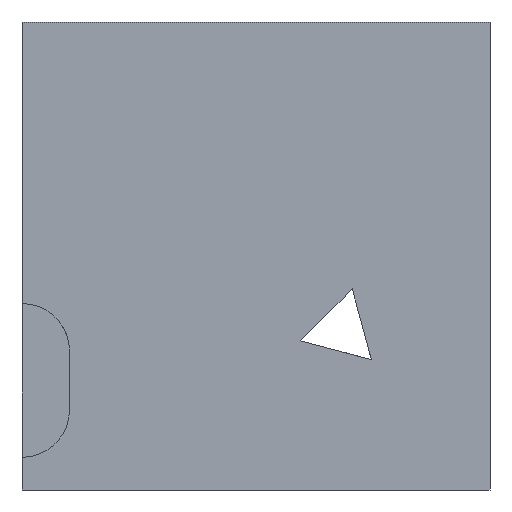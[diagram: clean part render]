
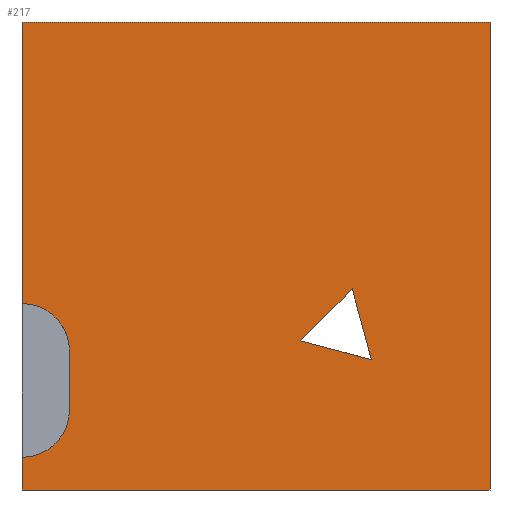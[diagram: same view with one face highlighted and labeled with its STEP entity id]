
A CAD part, front view. The second image highlights one B-rep face of the part: STEP entity #217.
In plain terms, the highlighted planar face has unit normal (0, -1, 0).
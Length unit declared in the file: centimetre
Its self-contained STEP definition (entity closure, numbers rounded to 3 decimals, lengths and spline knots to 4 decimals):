
#2 = VERTEX_POINT ( 'NONE', #24 ) ;
#13 = CARTESIAN_POINT ( 'NONE',  ( 0., 0., 0. ) ) ;
#15 = CARTESIAN_POINT ( 'NONE',  ( 0., 0., 296.8075 ) ) ;
#19 = LINE ( 'NONE', #441, #220 ) ;
#24 = CARTESIAN_POINT ( 'NONE',  ( 0., 0., 69.8417 ) ) ;
#74 = LINE ( 'NONE', #774, #208 ) ;
#90 = EDGE_CURVE ( 'NONE', #771, #142, #301, .T. ) ;
#94 = VECTOR ( 'NONE', #293, 100. ) ;
#115 = AXIS2_PLACEMENT_3D ( 'NONE', #511, #167, #725 ) ;
#130 = EDGE_CURVE ( 'NONE', #771, #803, #74, .T. ) ;
#142 = VERTEX_POINT ( 'NONE', #150 ) ;
#150 = CARTESIAN_POINT ( 'NONE',  ( 1000., 0., 1000. ) ) ;
#157 = VERTEX_POINT ( 'NONE', #418 ) ;
#167 = DIRECTION ( 'NONE',  ( 0., 1., 0. ) ) ;
#174 = CARTESIAN_POINT ( 'NONE',  ( 1000., 0., 1000. ) ) ;
#177 = LINE ( 'NONE', #13, #785 ) ;
#184 = ORIENTED_EDGE ( 'NONE', *, *, #90, .F. ) ;
#188 = ORIENTED_EDGE ( 'NONE', *, *, #130, .T. ) ;
#203 = EDGE_LOOP ( 'NONE', ( #823, #733, #551 ) ) ;
#208 = VECTOR ( 'NONE', #641, 100. ) ;
#217 = ADVANCED_FACE ( 'NONE', ( #847, #280 ), #720, .F. ) ;
#220 = VECTOR ( 'NONE', #521, 100. ) ;
#227 = CARTESIAN_POINT ( 'NONE',  ( 0., 0., 0. ) ) ;
#254 = EDGE_LOOP ( 'NONE', ( #824, #493, #896, #470, #490, #184, #188, #680 ) ) ;
#280 = FACE_OUTER_BOUND ( 'NONE', #254, .T. ) ;
#286 = EDGE_CURVE ( 'NONE', #702, #504, #880, .T. ) ;
#293 = DIRECTION ( 'NONE',  ( 1., 0., 0. ) ) ;
#296 = CARTESIAN_POINT ( 'NONE',  ( 594.6997, 0., 318.8105 ) ) ;
#301 = LINE ( 'NONE', #648, #94 ) ;
#310 = CARTESIAN_POINT ( 'NONE',  ( 0., 0., 398.354 ) ) ;
#313 = LINE ( 'NONE', #812, #762 ) ;
#314 = DIRECTION ( 'NONE',  ( 1., 0., 0. ) ) ;
#331 = VERTEX_POINT ( 'NONE', #869 ) ;
#340 = VECTOR ( 'NONE', #589, 100. ) ;
#344 = DIRECTION ( 'NONE',  ( 0., 1., 0. ) ) ;
#347 = VERTEX_POINT ( 'NONE', #227 ) ;
#349 = VECTOR ( 'NONE', #833, 100. ) ;
#359 = AXIS2_PLACEMENT_3D ( 'NONE', #15, #581, #799 ) ;
#384 = EDGE_CURVE ( 'NONE', #702, #2, #478, .T. ) ;
#400 = EDGE_CURVE ( 'NONE', #504, #803, #764, .T. ) ;
#418 = CARTESIAN_POINT ( 'NONE',  ( 746.5805, 0., 278.2738 ) ) ;
#423 = EDGE_CURVE ( 'NONE', #157, #464, #775, .T. ) ;
#441 = CARTESIAN_POINT ( 'NONE',  ( 746.5805, 0., 278.2738 ) ) ;
#445 = AXIS2_PLACEMENT_3D ( 'NONE', #708, #344, #497 ) ;
#449 = CARTESIAN_POINT ( 'NONE',  ( 101.5466, 0., 296.8075 ) ) ;
#464 = VERTEX_POINT ( 'NONE', #296 ) ;
#470 = ORIENTED_EDGE ( 'NONE', *, *, #717, .T. ) ;
#478 = CIRCLE ( 'NONE', #115, 101.5466 ) ;
#490 = ORIENTED_EDGE ( 'NONE', *, *, #751, .F. ) ;
#493 = ORIENTED_EDGE ( 'NONE', *, *, #384, .T. ) ;
#497 = DIRECTION ( 'NONE',  ( 0., 0., 1. ) ) ;
#504 = VERTEX_POINT ( 'NONE', #525 ) ;
#511 = CARTESIAN_POINT ( 'NONE',  ( 0., 0., 171.3883 ) ) ;
#521 = DIRECTION ( 'NONE',  ( 0.261, 0., -0.965 ) ) ;
#525 = CARTESIAN_POINT ( 'NONE',  ( 101.5466, 0., 296.8075 ) ) ;
#546 = EDGE_CURVE ( 'NONE', #2, #347, #313, .T. ) ;
#551 = ORIENTED_EDGE ( 'NONE', *, *, #423, .T. ) ;
#561 = DIRECTION ( 'NONE',  ( 0.707, 0., 0.707 ) ) ;
#581 = DIRECTION ( 'NONE',  ( 0., -1., 0. ) ) ;
#584 = CARTESIAN_POINT ( 'NONE',  ( 0., 0., 1000. ) ) ;
#589 = DIRECTION ( 'NONE',  ( 0., 0., -1. ) ) ;
#596 = DIRECTION ( 'NONE',  ( 0., 0., -1. ) ) ;
#605 = VERTEX_POINT ( 'NONE', #627 ) ;
#619 = VECTOR ( 'NONE', #736, 100. ) ;
#625 = EDGE_CURVE ( 'NONE', #464, #331, #864, .T. ) ;
#627 = CARTESIAN_POINT ( 'NONE',  ( 1000., 0., 0. ) ) ;
#641 = DIRECTION ( 'NONE',  ( 0., 0., -1. ) ) ;
#648 = CARTESIAN_POINT ( 'NONE',  ( 0., 0., 1000. ) ) ;
#680 = ORIENTED_EDGE ( 'NONE', *, *, #400, .F. ) ;
#702 = VERTEX_POINT ( 'NONE', #854 ) ;
#708 = CARTESIAN_POINT ( 'NONE',  ( 0., 0., 1000. ) ) ;
#713 = VECTOR ( 'NONE', #561, 100. ) ;
#715 = CARTESIAN_POINT ( 'NONE',  ( 594.6997, 0., 318.8105 ) ) ;
#717 = EDGE_CURVE ( 'NONE', #347, #605, #177, .T. ) ;
#720 = PLANE ( 'NONE',  #445 ) ;
#725 = DIRECTION ( 'NONE',  ( 0., 0., 1. ) ) ;
#733 = ORIENTED_EDGE ( 'NONE', *, *, #794, .T. ) ;
#736 = DIRECTION ( 'NONE',  ( 0., 0., 1. ) ) ;
#751 = EDGE_CURVE ( 'NONE', #142, #605, #796, .T. ) ;
#762 = VECTOR ( 'NONE', #596, 100. ) ;
#764 = CIRCLE ( 'NONE', #359, 101.5466 ) ;
#771 = VERTEX_POINT ( 'NONE', #584 ) ;
#774 = CARTESIAN_POINT ( 'NONE',  ( 0., 0., 1000. ) ) ;
#775 = LINE ( 'NONE', #715, #349 ) ;
#785 = VECTOR ( 'NONE', #314, 100. ) ;
#790 = CARTESIAN_POINT ( 'NONE',  ( 705.6661, 0., 429.7768 ) ) ;
#794 = EDGE_CURVE ( 'NONE', #331, #157, #19, .T. ) ;
#796 = LINE ( 'NONE', #174, #340 ) ;
#799 = DIRECTION ( 'NONE',  ( 0., 0., 1. ) ) ;
#803 = VERTEX_POINT ( 'NONE', #310 ) ;
#812 = CARTESIAN_POINT ( 'NONE',  ( 0., 0., 1000. ) ) ;
#823 = ORIENTED_EDGE ( 'NONE', *, *, #625, .T. ) ;
#824 = ORIENTED_EDGE ( 'NONE', *, *, #286, .F. ) ;
#833 = DIRECTION ( 'NONE',  ( -0.966, 0., 0.258 ) ) ;
#847 = FACE_BOUND ( 'NONE', #203, .T. ) ;
#854 = CARTESIAN_POINT ( 'NONE',  ( 101.5466, 0., 171.3883 ) ) ;
#864 = LINE ( 'NONE', #790, #713 ) ;
#869 = CARTESIAN_POINT ( 'NONE',  ( 705.6661, 0., 429.7768 ) ) ;
#880 = LINE ( 'NONE', #449, #619 ) ;
#896 = ORIENTED_EDGE ( 'NONE', *, *, #546, .T. ) ;
